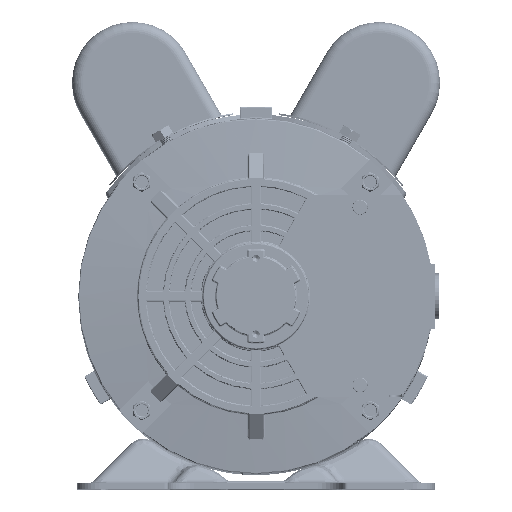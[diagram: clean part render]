
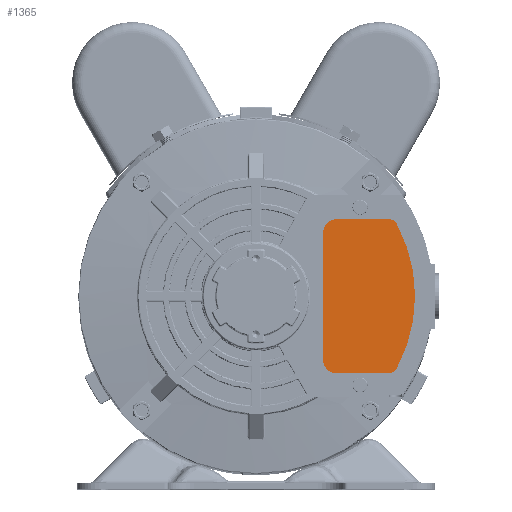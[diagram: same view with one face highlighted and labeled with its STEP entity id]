
A CAD part, top view. The second image highlights one B-rep face of the part: STEP entity #1365.
In plain terms, the highlighted planar face has unit normal (0, 0, 1).
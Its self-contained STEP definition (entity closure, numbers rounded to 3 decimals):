
#1365 = ADVANCED_FACE ( 'NONE', ( #48481 ), #82245, .T. ) ;
#1677 = DIRECTION ( 'NONE',  ( 0., 0., 1. ) ) ;
#1880 = EDGE_CURVE ( 'NONE', #65434, #76846, #13429, .T. ) ;
#2191 = CIRCLE ( 'NONE', #64053, 4. ) ;
#6440 = CARTESIAN_POINT ( 'NONE',  ( -16.113, 24.669, 490.625 ) ) ;
#8384 = AXIS2_PLACEMENT_3D ( 'NONE', #95720, #19907, #53667 ) ;
#9647 = VERTEX_POINT ( 'NONE', #53556 ) ;
#10309 = CARTESIAN_POINT ( 'NONE',  ( -16.113, 24.669, 490.625 ) ) ;
#12852 = DIRECTION ( 'NONE',  ( 0., -1., 0. ) ) ;
#13429 = CIRCLE ( 'NONE', #8384, 4. ) ;
#19907 = DIRECTION ( 'NONE',  ( 0., 0., 1. ) ) ;
#23705 = CIRCLE ( 'NONE', #85537, 6. ) ;
#24463 = LINE ( 'NONE', #58206, #30484 ) ;
#28091 = DIRECTION ( 'NONE',  ( 0., -1., 0. ) ) ;
#28339 = VERTEX_POINT ( 'NONE', #108165 ) ;
#28885 = LINE ( 'NONE', #62615, #65796 ) ;
#29866 = EDGE_CURVE ( 'NONE', #58401, #32275, #36581, .T. ) ;
#30484 = VECTOR ( 'NONE', #91958, 1000. ) ;
#32275 = VERTEX_POINT ( 'NONE', #109021 ) ;
#35108 = VERTEX_POINT ( 'NONE', #79466 ) ;
#35461 = DIRECTION ( 'NONE',  ( 0., -1., 0. ) ) ;
#36581 = CIRCLE ( 'NONE', #98437, 6. ) ;
#37467 = LINE ( 'NONE', #71211, #102083 ) ;
#40230 = DIRECTION ( 'NONE',  ( 0., 0., 1. ) ) ;
#40955 = ORIENTED_EDGE ( 'NONE', *, *, #29866, .T. ) ;
#44069 = DIRECTION ( 'NONE',  ( 0., 0., 1. ) ) ;
#44357 = CARTESIAN_POINT ( 'NONE',  ( 45.4, -8.74, 490.625 ) ) ;
#47376 = AXIS2_PLACEMENT_3D ( 'NONE', #10309, #44069, #77794 ) ;
#48481 = FACE_OUTER_BOUND ( 'NONE', #75641, .T. ) ;
#48655 = ORIENTED_EDGE ( 'NONE', *, *, #107247, .T. ) ;
#50560 = EDGE_CURVE ( 'NONE', #28339, #35108, #37467, .T. ) ;
#51754 = VERTEX_POINT ( 'NONE', #57329 ) ;
#53556 = CARTESIAN_POINT ( 'NONE',  ( 11.507, 54.169, 490.625 ) ) ;
#53667 = DIRECTION ( 'NONE',  ( 0., -1., 0. ) ) ;
#54912 = CARTESIAN_POINT ( 'NONE',  ( 41.885, 56.169, 490.625 ) ) ;
#54956 = CARTESIAN_POINT ( 'NONE',  ( 11.507, -4.831, 490.625 ) ) ;
#57329 = CARTESIAN_POINT ( 'NONE',  ( 45.4, 58.078, 490.625 ) ) ;
#57518 = EDGE_CURVE ( 'NONE', #32275, #65434, #24463, .T. ) ;
#58206 = CARTESIAN_POINT ( 'NONE',  ( 11.507, -10.831, 490.625 ) ) ;
#58401 = VERTEX_POINT ( 'NONE', #54956 ) ;
#59081 = ORIENTED_EDGE ( 'NONE', *, *, #65746, .T. ) ;
#60478 = EDGE_CURVE ( 'NONE', #51754, #28339, #2191, .T. ) ;
#62615 = CARTESIAN_POINT ( 'NONE',  ( 11.507, 60.169, 490.625 ) ) ;
#64053 = AXIS2_PLACEMENT_3D ( 'NONE', #54912, #88678, #12852 ) ;
#64578 = ORIENTED_EDGE ( 'NONE', *, *, #1880, .T. ) ;
#65434 = VERTEX_POINT ( 'NONE', #98698 ) ;
#65746 = EDGE_CURVE ( 'NONE', #9647, #58401, #28885, .T. ) ;
#65796 = VECTOR ( 'NONE', #96370, 1000. ) ;
#70144 = CARTESIAN_POINT ( 'NONE',  ( 17.507, 54.169, 490.625 ) ) ;
#71211 = CARTESIAN_POINT ( 'NONE',  ( 44.217, 60.169, 490.625 ) ) ;
#73950 = DIRECTION ( 'NONE',  ( 1., 0., 0. ) ) ;
#75641 = EDGE_LOOP ( 'NONE', ( #100584, #64578, #48655, #80750, #87631, #106644, #59081, #40955 ) ) ;
#76846 = VERTEX_POINT ( 'NONE', #44357 ) ;
#77485 = CARTESIAN_POINT ( 'NONE',  ( 17.507, -4.831, 490.625 ) ) ;
#77794 = DIRECTION ( 'NONE',  ( 0., -1., 0. ) ) ;
#79466 = CARTESIAN_POINT ( 'NONE',  ( 17.507, 60.169, 490.625 ) ) ;
#80750 = ORIENTED_EDGE ( 'NONE', *, *, #60478, .T. ) ;
#82245 = PLANE ( 'NONE',  #105804 ) ;
#85537 = AXIS2_PLACEMENT_3D ( 'NONE', #70144, #103906, #28091 ) ;
#87631 = ORIENTED_EDGE ( 'NONE', *, *, #50560, .T. ) ;
#88678 = DIRECTION ( 'NONE',  ( 0., 0., 1. ) ) ;
#91958 = DIRECTION ( 'NONE',  ( 1., 0., 0. ) ) ;
#95082 = CIRCLE ( 'NONE', #47376, 70. ) ;
#95720 = CARTESIAN_POINT ( 'NONE',  ( 41.885, -6.831, 490.625 ) ) ;
#96370 = DIRECTION ( 'NONE',  ( 0., -1., 0. ) ) ;
#98437 = AXIS2_PLACEMENT_3D ( 'NONE', #77485, #1677, #35461 ) ;
#98698 = CARTESIAN_POINT ( 'NONE',  ( 41.885, -10.831, 490.625 ) ) ;
#100584 = ORIENTED_EDGE ( 'NONE', *, *, #57518, .T. ) ;
#100604 = EDGE_CURVE ( 'NONE', #35108, #9647, #23705, .T. ) ;
#102083 = VECTOR ( 'NONE', #104967, 1000. ) ;
#103906 = DIRECTION ( 'NONE',  ( 0., 0., 1. ) ) ;
#104967 = DIRECTION ( 'NONE',  ( -1., 0., 0. ) ) ;
#105804 = AXIS2_PLACEMENT_3D ( 'NONE', #6440, #40230, #73950 ) ;
#106644 = ORIENTED_EDGE ( 'NONE', *, *, #100604, .T. ) ;
#107247 = EDGE_CURVE ( 'NONE', #76846, #51754, #95082, .T. ) ;
#108165 = CARTESIAN_POINT ( 'NONE',  ( 41.885, 60.169, 490.625 ) ) ;
#109021 = CARTESIAN_POINT ( 'NONE',  ( 17.507, -10.831, 490.625 ) ) ;
